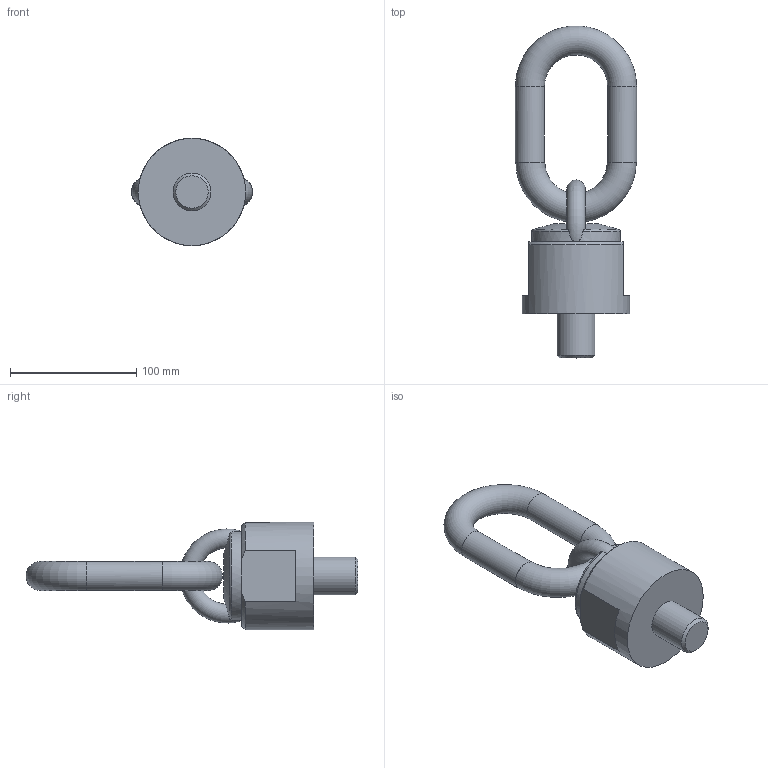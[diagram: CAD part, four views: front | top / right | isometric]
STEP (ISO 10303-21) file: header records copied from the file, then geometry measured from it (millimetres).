
FILE_DESCRIPTION( ( 'STEP AP203' ), '1' );
FILE_NAME( 'p:/temp/worker_9/temp/app_47_0201906261620170470695610e898ce_000000_00_00_000000/format_2/C8000803035.stp', '2019-06-26T14:20:20', ( '' ), ( '' ), ' ', 'PARTsolutions', ' ' );
FILE_SCHEMA( ( 'CONFIG_CONTROL_DESIGN' ) );
Length unit declared in the file: millimetre
Products named in the file (1): _C8000803035
Bounding box: 96 x 262.92 x 85 mm (x, y, z)
Volume: 544569.9 mm3; surface area: 60105.2 mm2
Topology: 1 solids, 1 shells, 27 faces, 66 edges, 41 vertices
Faces by surface type: plane 12, cylinder 6, torus 5, cone 4
Full cylindrical faces by diameter (mm): 23 x2, 30 x1, 85 x1
Entity records: 1086 total; most frequent: CARTESIAN_POINT 476, DIRECTION 118, ORIENTED_EDGE 104, AXIS2_PLACEMENT_3D 55, EDGE_CURVE 52, EDGE_LOOP 40, VERTEX_POINT 37, FACE_OUTER_BOUND 34
